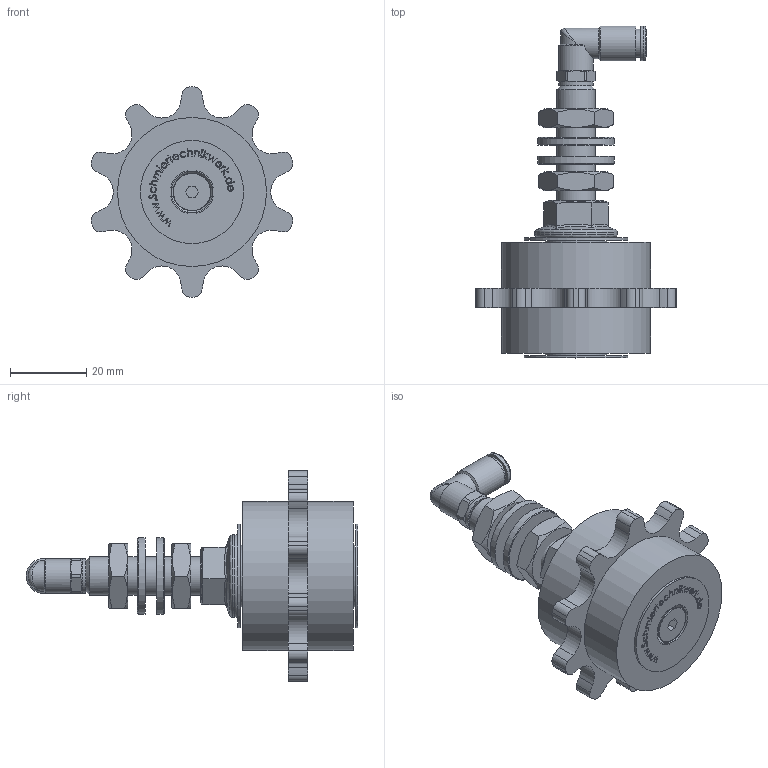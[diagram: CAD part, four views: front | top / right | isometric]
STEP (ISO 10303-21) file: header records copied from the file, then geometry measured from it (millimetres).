
FILE_DESCRIPTION (( 'STEP AP214' ), '1' );
FILE_NAME ('012_06_10B1_AZ.STEP', '2026-01-19T09:48:44', ( '' ), ( '' ), 'SwSTEP 2.0', 'SolidWorks 2022', '' );
FILE_SCHEMA (( 'AUTOMOTIVE_DESIGN' ));
Length unit declared in the file: millimetre
Products named in the file (9): 012_06_10B1_AZ; OR 4X1.5; DR4_NEU_1; Mutter_M10; 214600-N2_1; U_Scheibe_10.5; R202200-N2A_1; Winkeleinsteck_4_M6; 012_06_10B1_A_Kettenschmierritzel 10 B-1, Z10 - gerade
Assembly tree (10 placements, depth 3):
  012_06_10B1_AZ
    012_06_10B1_A_Kettenschmierritzel 10 B-1, Z10 - gerade
    Mutter_M10  x2
    U_Scheibe_10.5  x2
    Winkeleinsteck_4_M6
      OR 4X1.5
      214600-N2_1
      DR4_NEU_1
      R202200-N2A_1
Bounding box: 52.83 x 86.85 x 55 mm (x, y, z)
Volume: 4119.2 mm3; surface area: 18148.7 mm2
Topology: 8 solids, 32 shells, 305 faces, 1038 edges, 787 vertices
Faces by surface type: cylinder 137, plane 98, cone 56, bspline 14
Full cylindrical faces by diameter (mm): 3 x1, 4 x2, 4.1 x2, 4.2 x1, 4.6 x1, 4.917 x1, 5 x8, 6 x2, 6.4 x1, 6.8 x2, 7.3 x1, 7.4 x1, 7.6 x1, 7.85 x1, 7.9 x1, 8 x1, 8.5 x2, 9 x3, 9.1 x1, 10 x2, 10.5 x2, 12 x2, 12.1 x1, 16 x2, 20 x2, 21.6 x1, 27 x2, 39 x2
Entity records: 22002 total; most frequent: CARTESIAN_POINT 12197, DIRECTION 1428, ORIENTED_EDGE 1399, EDGE_CURVE 865, VERTEX_POINT 717, AXIS2_PLACEMENT_3D 560, EDGE_LOOP 434, FACE_OUTER_BOUND 337
